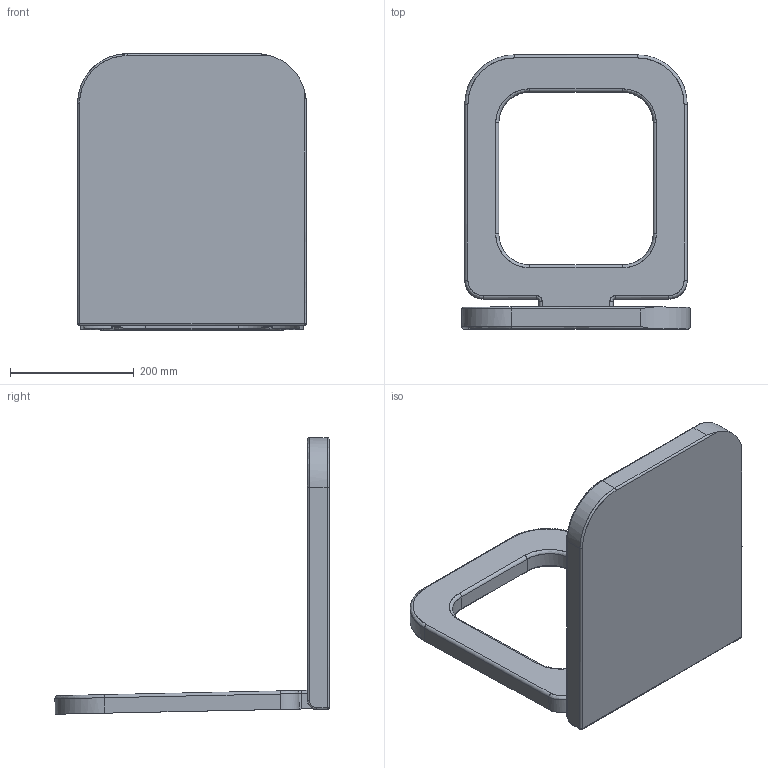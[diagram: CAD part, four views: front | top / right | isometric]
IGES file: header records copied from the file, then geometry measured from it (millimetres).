
Start section: C
Global section: file name: Sedile Butterfly S-46 .igs; native system:  By UGS Corp.; preprocessor: XPlus GENERIC/IGES 3.0; author: Author; organization: Title; date: 20120629.165745; units: millimetre
Bounding box: 370 x 443.89 x 447.67 mm (x, y, z)
Surface area: 665914 mm2 (no closed solid volume)
Topology: 0 solids, 0 shells, 232 faces, 1102 edges, 1094 vertices
Faces by surface type: bspline 232
